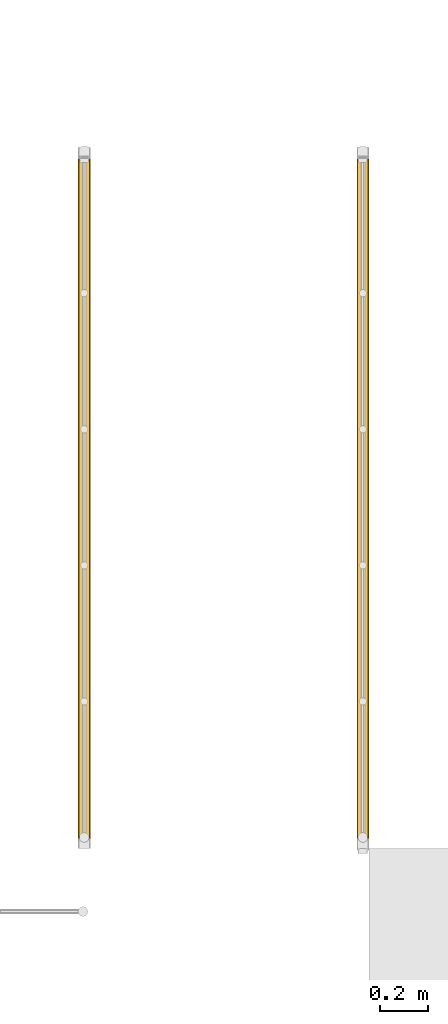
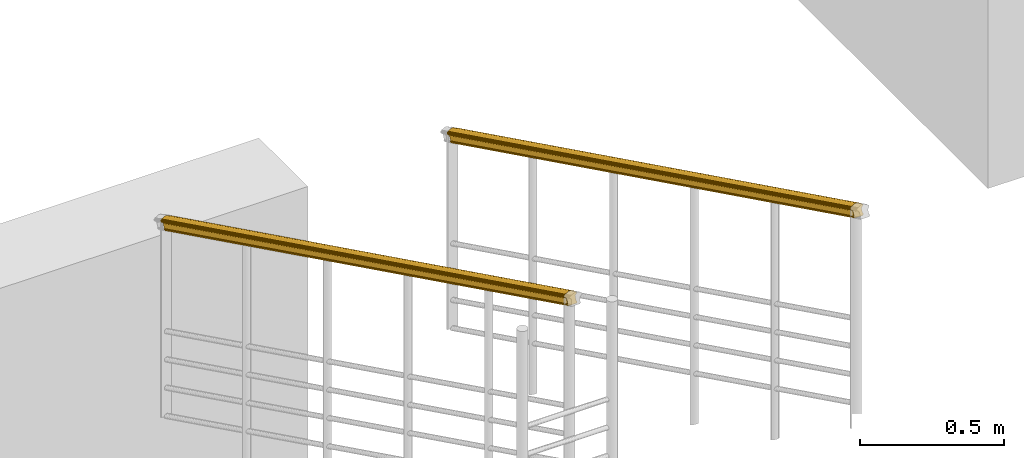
# One storey, part 16 of 16: 2 railings, 2 elements without a shape of their own.
"""IFC2X3 building model written with IfcOpenShell, lengths in millimetres."""

from ifc_helpers import new_model, entity, si_unit, converted_unit, derived_unit, money_unit, direction, frame, origin_with_axes, place, context, subcontext, project, spatial, faceted_brep, source, transform, mapped, material, type_object, element, aggregate, save


model = new_model("IFC2X3")

# Units and contexts
model_context = context("Model", 3, precision=0.01, world=origin_with_axes(), true_north=direction((0.0, 1.0)))
body_context = subcontext(model_context, "Body", "Model", "MODEL_VIEW")
ifc_project = project(units=[si_unit("LENGTHUNIT", "METRE", prefix="MILLI"), si_unit("AREAUNIT", "SQUARE_METRE"), si_unit("VOLUMEUNIT", "CUBIC_METRE"), converted_unit("PLANEANGLEUNIT", "DEGREE", entity("IfcPlaneAngleMeasure", 0.0174532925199), si_unit("PLANEANGLEUNIT", "RADIAN"), dimensions=[0, 0, 0, 0, 0, 0, 0]), si_unit("SOLIDANGLEUNIT", "STERADIAN"), money_unit("EUR"), converted_unit("TIMEUNIT", "Year", entity("IfcTimeMeasure", 31556926.0), si_unit("TIMEUNIT", "SECOND"), dimensions=[0, 0, 1, 0, 0, 0, 0]), si_unit("MASSUNIT", "GRAM", prefix="KILO"), si_unit("THERMODYNAMICTEMPERATUREUNIT", "DEGREE_CELSIUS"), si_unit("LUMINOUSINTENSITYUNIT", "LUMEN"), si_unit("ENERGYUNIT", "JOULE", prefix="MEGA"), derived_unit("THERMALCONDUCTANCEUNIT", [(si_unit("POWERUNIT", "WATT"), 1), (si_unit("LENGTHUNIT", "METRE"), -1), (si_unit("THERMODYNAMICTEMPERATUREUNIT", "KELVIN"), -1)]), derived_unit("SPECIFICHEATCAPACITYUNIT", [(si_unit("ENERGYUNIT", "JOULE"), 1), (si_unit("MASSUNIT", "GRAM", prefix="KILO"), -1), (si_unit("THERMODYNAMICTEMPERATUREUNIT", "KELVIN"), -1)]), derived_unit("MASSDENSITYUNIT", [(si_unit("MASSUNIT", "GRAM", prefix="KILO"), 1), (si_unit("VOLUMEUNIT", "CUBIC_METRE"), -1)])], contexts=[model_context])

# Site, building, storey
site_placement = place(None, origin_with_axes())
site = spatial("IfcSite", under=ifc_project, at=site_placement, Name="Paldiski mnt 245/1, Tallinn, Harjumaa", CompositionType="COMPLEX")
building_placement = place(site_placement, origin_with_axes())
building = spatial("IfcBuilding", under=site, at=building_placement, Name="RKAS Hoone üldnimetus (kasutust iseloomustav) -> IFC Project Manager -> SOLIBRI", CompositionType="ELEMENT")
storey_placement = place(building_placement, frame((0.0, 0.0, -1200.0), z_axis=(0.0, 0.0, 1.0), x_axis=(1.0, 0.0, 0.0)))
storey = spatial("IfcBuildingStorey", under=building, at=storey_placement, Name="Vundament", CompositionType="ELEMENT", Elevation=-1200.0)

# Railings
railing_type_1 = type_object("IfcRailingType", Name="Railing Type", PredefinedType="NOTDEFINED")
railing_1_placement = place(storey_placement, frame((-44615.0, -7778.11378171, 1453.63636364), z_axis=(0.0, 0.0, 1.0), x_axis=(-0.773149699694, -0.634223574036, 0.0)))
railing_1 = element("IfcRailing", 1, at=railing_1_placement, inside=storey, type_object=railing_type_1, Name="PIIRE", PredefinedType="NOTDEFINED")
ifc_material = material(Name="ET-07_Teras - Roostevaba")
railing_type_2 = type_object("IfcRailingType", Name="IfcRailing", PredefinedType="GUARDRAIL")
shared_shape = source(origin_with_axes(), body_context, "Body", "Brep", [
    faceted_brep([(17.1348314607, -22.0942804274, 905.146429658), (17.1348314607, -20.853028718, 907.666293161), (17.1348314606, -2827.9258906, 2290.39356589), (17.1348314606, -2829.16714231, 2287.87370239), (-17.1348314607, -22.0942804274, 905.146429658), (-17.1348314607, -20.853028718, 907.666293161), (-17.3551690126, -20.8487777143, 907.674923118), (-17.7891492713, -20.8149635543, 907.743569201), (-18.2032484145, -20.7483626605, 907.87877559), (-18.5848842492, -20.6509986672, 908.076434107), (-18.9224609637, -20.5258299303, 908.330539), (-19.2057214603, -20.3766596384, 908.633369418), (-19.4260590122, -20.2080202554, 908.975724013), (-19.5767787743, -20.0250358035, 909.347200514), (-19.653301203, -19.8332661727, 909.736511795), (-19.653301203, -19.6385381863, 910.13182883), (-19.5767787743, -19.4467685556, 910.521140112), (-19.4260590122, -19.2637841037, 910.892616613), (-19.2057214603, -19.0951447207, 911.234971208), (-18.9224609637, -18.9459744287, 911.537801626), (-18.5848842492, -18.8208056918, 911.791906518), (-18.2032484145, -18.7234416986, 911.989565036), (-17.7891492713, -18.6568408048, 912.124771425), (-17.3551690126, -18.6230266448, 912.193417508), (-17.1348314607, -18.6187756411, 912.202047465), (-17.1348314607, -10.426514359, 928.83314658), (-17.1444516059, -10.3291503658, 929.030805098), (-17.2209740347, -10.1373807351, 929.420116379), (-17.3716937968, -9.95439628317, 929.79159288), (-17.5920313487, -9.78575690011, 930.133947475), (-17.8752918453, -9.63658660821, 930.436777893), (-18.2128685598, -9.51141787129, 930.690882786), (-18.5945043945, -9.41405387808, 930.888541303), (-19.0086035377, -9.34745298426, 931.023747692), (-19.4425837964, -9.31363882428, 931.092393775), (-19.6629213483, -9.30938782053, 931.101023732), (-19.6629213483, -8.31638645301, 933.116914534), (-20.1280784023, -8.30741211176, 933.135133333), (-21.0442589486, -8.23602666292, 933.280052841), (-21.9184682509, -8.09542477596, 933.565488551), (-22.7241439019, -7.88987856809, 933.982767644), (-23.4368058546, -7.62563345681, 934.519211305), (-24.0348002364, -7.31071839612, 935.158519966), (-24.4999572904, -6.95470192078, 935.881268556), (-24.8181434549, -6.56840141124, 936.665496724), (-24.9796908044, -6.16355441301, 937.487376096), (-24.9796908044, -5.75246199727, 938.321934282), (-24.8181434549, -5.34761499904, 939.143813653), (-24.4999572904, -4.9613144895, 939.928041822), (-24.0348002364, -4.60529801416, 940.650790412), (-23.4368058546, -4.29038295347, 941.290099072), (-22.7241439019, -4.02613784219, 941.826542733), (-21.9184682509, -3.82059163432, 942.243821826), (-21.0442589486, -3.67998974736, 942.529257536), (-20.1280784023, -3.60860429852, 942.674177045), (-19.6629213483, -3.59962995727, 942.692395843), (-19.6629213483, -2.63562365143, 944.649423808), (-19.1300013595, -2.63177115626, 944.657244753), (-16.3105120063, -2.4815643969, 944.962179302), (-13.5928839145, -2.11729278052, 945.701686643), (-11.0596908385, -1.55002451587, 946.85329722), (-10.6117353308, -1.4224001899, 947.1123872), (-9.55056179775, -1.13081413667, 947.704335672), (-6.53296902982, -0.509025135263, 948.966628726), (-3.31687530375, -0.128230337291, 949.739679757), (0.0, 0.0, 950.0), (3.31687530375, -0.128230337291, 949.739679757), (6.53296902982, -0.509025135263, 948.966628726), (9.55056179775, -1.13081413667, 947.704335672), (10.6117353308, -1.4224001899, 947.1123872), (13.5928839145, -2.11729278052, 945.701686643), (16.3105120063, -2.4815643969, 944.962179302), (19.1300013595, -2.63177115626, 944.657244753), (19.6629213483, -2.63562365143, 944.649423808), (19.6629213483, -3.59962995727, 942.692395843), (20.1280784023, -3.60860429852, 942.674177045), (21.0442589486, -3.67998974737, 942.529257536), (21.9184682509, -3.82059163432, 942.243821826), (22.7241439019, -4.02613784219, 941.826542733), (23.4368058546, -4.29038295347, 941.290099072), (24.0348002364, -4.60529801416, 940.650790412), (24.4999572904, -4.9613144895, 939.928041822), (24.8181434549, -5.34761499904, 939.143813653), (24.9796908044, -5.75246199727, 938.321934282), (24.9796908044, -6.16355441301, 937.487376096), (24.8181434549, -6.56840141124, 936.665496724), (24.4999572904, -6.95470192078, 935.881268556), (24.0348002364, -7.31071839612, 935.158519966), (23.4368058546, -7.62563345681, 934.519211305), (22.7241439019, -7.88987856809, 933.982767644), (21.9184682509, -8.09542477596, 933.565488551), (21.0442589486, -8.23602666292, 933.280052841), (20.1280784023, -8.30741211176, 933.135133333), (19.6629213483, -8.31638645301, 933.116914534), (19.6629213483, -9.30938782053, 931.101023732), (19.4425837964, -9.31363882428, 931.092393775), (19.0086035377, -9.34745298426, 931.023747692), (18.5945043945, -9.41405387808, 930.888541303), (18.2128685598, -9.51141787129, 930.690882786), (17.8752918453, -9.63658660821, 930.436777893), (17.5920313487, -9.78575690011, 930.133947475), (17.3716937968, -9.95439628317, 929.79159288), (17.2209740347, -10.1373807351, 929.420116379), (17.1444516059, -10.3291503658, 929.030805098), (17.1348314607, -10.426514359, 928.83314658), (17.1348314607, -18.6187756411, 912.202047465), (17.3551690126, -18.6230266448, 912.193417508), (17.7891492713, -18.6568408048, 912.124771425), (18.2032484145, -18.7234416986, 911.989565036), (18.5848842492, -18.8208056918, 911.791906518), (18.9224609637, -18.9459744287, 911.537801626), (19.2057214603, -19.0951447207, 911.234971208), (19.4260590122, -19.2637841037, 910.892616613), (19.5767787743, -19.4467685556, 910.521140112), (19.653301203, -19.6385381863, 910.13182883), (19.653301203, -19.8332661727, 909.736511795), (19.5767787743, -20.0250358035, 909.347200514), (19.4260590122, -20.2080202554, 908.975724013), (19.2057214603, -20.3766596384, 908.633369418), (18.9224609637, -20.5258299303, 908.330539), (18.5848842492, -20.6509986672, 908.076434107), (18.2032484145, -20.7483626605, 907.87877559), (17.7891492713, -20.8149635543, 907.743569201), (17.3551690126, -20.8487777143, 907.674923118), (17.3551690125, -2827.9216396, 2290.40219585), (17.7891492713, -2827.88782544, 2290.47084193), (18.2032484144, -2827.82122454, 2290.60604832), (18.5848842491, -2827.72386055, 2290.80370683), (18.9224609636, -2827.59869181, 2291.05781173), (19.2057214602, -2827.44952152, 2291.36064215), (19.4260590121, -2827.28088214, 2291.70299674), (19.5767787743, -2827.09789769, 2292.07447324), (19.653301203, -2826.90612806, 2292.46378452), (19.653301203, -2826.71140007, 2292.85910156), (19.5767787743, -2826.51963044, 2293.24841284), (19.4260590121, -2826.33664599, 2293.61988934), (19.2057214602, -2826.1680066, 2293.96224394), (18.9224609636, -2826.01883631, 2294.26507435), (18.5848842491, -2825.89366757, 2294.51917925), (18.2032484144, -2825.79630358, 2294.71683776), (17.7891492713, -2825.72970269, 2294.85204415), (17.3551690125, -2825.69588853, 2294.92069023), (17.1348314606, -2825.69163752, 2294.92932019), (17.1348314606, -2817.49937624, 2311.56041931), (17.1444516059, -2817.40201225, 2311.75807783), (17.2209740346, -2817.21024262, 2312.14738911), (17.3716937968, -2817.02725817, 2312.51886561), (17.5920313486, -2816.85861878, 2312.8612202), (17.8752918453, -2816.70944849, 2313.16405062), (18.2128685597, -2816.58427975, 2313.41815551), (18.5945043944, -2816.48691576, 2313.61581403), (19.0086035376, -2816.42031487, 2313.75102042), (19.4425837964, -2816.38650071, 2313.8196665), (19.6629213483, -2816.3822497, 2313.82829646), (19.6629213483, -2815.38924834, 2315.84418726), (20.1280784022, -2815.38027399, 2315.86240606), (21.0442589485, -2815.30888855, 2316.00732557), (21.9184682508, -2815.16828666, 2316.29276128), (22.7241439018, -2814.96274045, 2316.71004037), (23.4368058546, -2814.69849534, 2317.24648403), (24.0348002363, -2814.38358028, 2317.88579269), (24.4999572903, -2814.0275638, 2318.60854128), (24.8181434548, -2813.64126329, 2319.39276945), (24.9796908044, -2813.2364163, 2320.21464882), (24.9796908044, -2812.82532388, 2321.04920701), (24.8181434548, -2812.42047688, 2321.87108638), (24.4999572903, -2812.03417637, 2322.65531455), (24.0348002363, -2811.6781599, 2323.37806314), (23.4368058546, -2811.36324484, 2324.0173718), (22.7241439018, -2811.09899973, 2324.55381546), (21.9184682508, -2810.89345352, 2324.97109455), (21.0442589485, -2810.75285163, 2325.25653026), (20.1280784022, -2810.68146618, 2325.40144977), (19.6629213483, -2810.67249184, 2325.41966857), (19.6629213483, -2809.70848553, 2327.37669653), (19.1300013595, -2809.70463304, 2327.38451748), (16.3105120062, -2809.55442628, 2327.68945203), (13.5928839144, -2809.19015466, 2328.42895937), (10.6117353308, -2808.49526207, 2329.83965993), (9.55056179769, -2808.20367602, 2330.4316084), (6.53296902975, -2807.58188702, 2331.69390145), (3.31687530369, -2807.20109222, 2332.46695248), (0.0, -2807.07286188, 2332.72727273), (-3.31687530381, -2807.20109222, 2332.46695248), (-6.53296902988, -2807.58188702, 2331.69390145), (-9.55056179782, -2808.20367602, 2330.4316084), (-10.6117353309, -2808.49526207, 2329.83965993), (-11.0596908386, -2808.6228864, 2329.58056995), (-13.5928839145, -2809.19015466, 2328.42895937), (-16.3105120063, -2809.55442628, 2327.68945203), (-19.1300013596, -2809.70463304, 2327.38451748), (-19.6629213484, -2809.70848553, 2327.37669653), (-19.6629213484, -2810.67249184, 2325.41966857), (-20.1280784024, -2810.68146618, 2325.40144977), (-21.0442589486, -2810.75285163, 2325.25653026), (-21.9184682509, -2810.89345352, 2324.97109455), (-22.7241439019, -2811.09899973, 2324.55381546), (-23.4368058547, -2811.36324484, 2324.0173718), (-24.0348002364, -2811.6781599, 2323.37806314), (-24.4999572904, -2812.03417637, 2322.65531455), (-24.818143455, -2812.42047688, 2321.87108638), (-24.9796908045, -2812.82532388, 2321.04920701), (-24.9796908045, -2813.2364163, 2320.21464882), (-24.818143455, -2813.64126329, 2319.39276945), (-24.4999572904, -2814.0275638, 2318.60854128), (-24.0348002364, -2814.38358028, 2317.88579269), (-23.4368058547, -2814.69849534, 2317.24648403), (-22.7241439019, -2814.96274045, 2316.71004037), (-21.9184682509, -2815.16828666, 2316.29276128), (-21.0442589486, -2815.30888855, 2316.00732557), (-20.1280784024, -2815.38027399, 2315.86240606), (-19.6629213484, -2815.38924834, 2315.84418726), (-19.6629213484, -2816.3822497, 2313.82829646), (-19.4425837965, -2816.38650071, 2313.8196665), (-19.0086035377, -2816.42031487, 2313.75102042), (-18.5945043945, -2816.48691576, 2313.61581403), (-18.2128685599, -2816.58427975, 2313.41815551), (-17.8752918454, -2816.70944849, 2313.16405062), (-17.5920313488, -2816.85861878, 2312.8612202), (-17.3716937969, -2817.02725817, 2312.51886561), (-17.2209740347, -2817.21024262, 2312.14738911), (-17.144451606, -2817.40201225, 2311.75807783), (-17.1348314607, -2817.49937624, 2311.56041931), (-17.1348314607, -2825.69163752, 2294.92932019), (-17.3551690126, -2825.69588853, 2294.92069023), (-17.7891492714, -2825.72970269, 2294.85204415), (-18.2032484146, -2825.79630358, 2294.71683776), (-18.5848842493, -2825.89366757, 2294.51917925), (-18.9224609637, -2826.01883631, 2294.26507435), (-19.2057214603, -2826.1680066, 2293.96224394), (-19.4260590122, -2826.33664599, 2293.61988934), (-19.5767787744, -2826.51963044, 2293.24841284), (-19.6533012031, -2826.71140007, 2292.85910156), (-19.6533012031, -2826.90612806, 2292.46378452), (-19.5767787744, -2827.09789769, 2292.07447324), (-19.4260590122, -2827.28088214, 2291.70299674), (-19.2057214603, -2827.44952152, 2291.36064215), (-18.9224609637, -2827.59869181, 2291.05781173), (-18.5848842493, -2827.72386055, 2290.80370683), (-18.2032484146, -2827.82122454, 2290.60604832), (-17.7891492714, -2827.88782544, 2290.47084193), (-17.3551690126, -2827.9216396, 2290.40219585), (-17.1348314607, -2827.9258906, 2290.39356589), (-17.1348314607, -2829.16714231, 2287.87370239)], [[[0, 1, 2, 3]], [[0, 4, 5, 6, 7, 8, 9, 10, 11, 12, 13, 14, 15, 16, 17, 18, 19, 20, 21, 22, 23, 24, 25, 26, 27, 28, 29, 30, 31, 32, 33, 34, 35, 36, 37, 38, 39, 40, 41, 42, 43, 44, 45, 46, 47, 48, 49, 50, 51, 52, 53, 54, 55, 56, 57, 58, 59, 60, 61, 62, 63, 64, 65, 66, 67, 68, 69, 70, 71, 72, 73, 74, 75, 76, 77, 78, 79, 80, 81, 82, 83, 84, 85, 86, 87, 88, 89, 90, 91, 92, 93, 94, 95, 96, 97, 98, 99, 100, 101, 102, 103, 104, 105, 106, 107, 108, 109, 110, 111, 112, 113, 114, 115, 116, 117, 118, 119, 120, 121, 122, 123, 1]], [[1, 123, 124, 2]], [[3, 2, 124, 125, 126, 127, 128, 129, 130, 131, 132, 133, 134, 135, 136, 137, 138, 139, 140, 141, 142, 143, 144, 145, 146, 147, 148, 149, 150, 151, 152, 153, 154, 155, 156, 157, 158, 159, 160, 161, 162, 163, 164, 165, 166, 167, 168, 169, 170, 171, 172, 173, 174, 175, 176, 177, 178, 179, 180, 181, 182, 183, 184, 185, 186, 187, 188, 189, 190, 191, 192, 193, 194, 195, 196, 197, 198, 199, 200, 201, 202, 203, 204, 205, 206, 207, 208, 209, 210, 211, 212, 213, 214, 215, 216, 217, 218, 219, 220, 221, 222, 223, 224, 225, 226, 227, 228, 229, 230, 231, 232, 233, 234, 235, 236, 237, 238, 239, 240, 241, 242, 243]], [[4, 0, 3, 243]], [[5, 4, 243, 242]], [[6, 5, 242, 241]], [[7, 6, 241, 240]], [[8, 7, 240, 239]], [[9, 8, 239, 238]], [[10, 9, 238, 237]], [[11, 10, 237, 236]], [[12, 11, 236, 235]], [[13, 12, 235, 234]], [[14, 13, 234, 233]], [[15, 14, 233, 232]], [[16, 15, 232, 231]], [[17, 16, 231, 230]], [[18, 17, 230, 229]], [[19, 18, 229, 228]], [[20, 19, 228, 227]], [[21, 20, 227, 226]], [[22, 21, 226, 225]], [[23, 22, 225, 224]], [[24, 23, 224, 223]], [[25, 24, 223, 222]], [[26, 25, 222, 221]], [[27, 26, 221, 220]], [[28, 27, 220, 219]], [[29, 28, 219, 218]], [[30, 29, 218, 217]], [[31, 30, 217, 216]], [[32, 31, 216, 215]], [[33, 32, 215, 214]], [[34, 33, 214, 213]], [[35, 34, 213, 212]], [[36, 35, 212, 211]], [[37, 36, 211, 210]], [[38, 37, 210, 209]], [[39, 38, 209, 208]], [[40, 39, 208, 207]], [[41, 40, 207, 206]], [[42, 41, 206, 205]], [[43, 42, 205, 204]], [[44, 43, 204, 203]], [[45, 44, 203, 202]], [[46, 45, 202, 201]], [[47, 46, 201, 200]], [[48, 47, 200, 199]], [[49, 48, 199, 198]], [[50, 49, 198, 197]], [[51, 50, 197, 196]], [[52, 51, 196, 195]], [[53, 52, 195, 194]], [[54, 53, 194, 193]], [[55, 54, 193, 192]], [[56, 55, 192, 191]], [[57, 56, 191, 190]], [[58, 57, 190, 189]], [[59, 58, 189, 188]], [[60, 59, 188, 187]], [[61, 60, 187, 186]], [[62, 61, 186, 185]], [[63, 62, 185, 184]], [[64, 63, 184, 183]], [[65, 64, 183, 182]], [[66, 65, 182, 181]], [[67, 66, 181, 180]], [[68, 67, 180, 179]], [[69, 68, 179, 178]], [[70, 69, 178, 177]], [[71, 70, 177, 176]], [[72, 71, 176, 175]], [[73, 72, 175, 174]], [[74, 73, 174, 173]], [[75, 74, 173, 172]], [[76, 75, 172, 171]], [[77, 76, 171, 170]], [[78, 77, 170, 169]], [[79, 78, 169, 168]], [[80, 79, 168, 167]], [[81, 80, 167, 166]], [[82, 81, 166, 165]], [[83, 82, 165, 164]], [[84, 83, 164, 163]], [[85, 84, 163, 162]], [[86, 85, 162, 161]], [[87, 86, 161, 160]], [[88, 87, 160, 159]], [[89, 88, 159, 158]], [[90, 89, 158, 157]], [[91, 90, 157, 156]], [[92, 91, 156, 155]], [[93, 92, 155, 154]], [[94, 93, 154, 153]], [[95, 94, 153, 152]], [[96, 95, 152, 151]], [[97, 96, 151, 150]], [[98, 97, 150, 149]], [[99, 98, 149, 148]], [[100, 99, 148, 147]], [[101, 100, 147, 146]], [[102, 101, 146, 145]], [[103, 102, 145, 144]], [[104, 103, 144, 143]], [[105, 104, 143, 142]], [[106, 105, 142, 141]], [[107, 106, 141, 140]], [[108, 107, 140, 139]], [[109, 108, 139, 138]], [[110, 109, 138, 137]], [[111, 110, 137, 136]], [[112, 111, 136, 135]], [[113, 112, 135, 134]], [[114, 113, 134, 133]], [[115, 114, 133, 132]], [[116, 115, 132, 131]], [[117, 116, 131, 130]], [[118, 117, 130, 129]], [[119, 118, 129, 128]], [[120, 119, 128, 127]], [[121, 120, 127, 126]], [[122, 121, 126, 125]], [[123, 122, 125, 124]]]),
])
railing_2_placement = place(railing_1_placement, frame((890.155891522, 1085.14377009, 794.098300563), z_axis=(0.0, 0.0, 1.0), x_axis=(-0.773149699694, 0.634223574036, 0.0)))
railing_2 = element("IfcRailing", 2, at=railing_2_placement, type_object=railing_type_2, material=ifc_material, Name="Piirde Ülaosa - 001", PredefinedType="GUARDRAIL", context=body_context, shape_type="MappedRepresentation", body=[
    mapped(shared_shape, transform((0.0, 1403.53643094, -894.098300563))),
])
aggregate(railing_1, [railing_2])

railing_3_placement = place(storey_placement, frame((-45764.8098199, -7778.11378171, 1483.63636364), z_axis=(0.0, 0.0, 1.0), x_axis=(-0.773149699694, -0.634223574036, 0.0)))
railing_3 = element("IfcRailing", 3, at=railing_3_placement, inside=storey, type_object=railing_type_1, Name="PIIRE", PredefinedType="NOTDEFINED")
railing_4_placement = place(railing_3_placement, frame((890.155891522, 1085.14377009, 794.098300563), z_axis=(0.0, 0.0, 1.0), x_axis=(-0.773149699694, 0.634223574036, 0.0)))
railing_4 = element("IfcRailing", 4, at=railing_4_placement, type_object=railing_type_2, material=ifc_material, Name="Piirde Ülaosa - 001", PredefinedType="GUARDRAIL", context=body_context, shape_type="MappedRepresentation", body=[
    mapped(shared_shape, transform((0.0, 1403.53643094, -894.098300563))),
])
aggregate(railing_3, [railing_4])

save(model, "model.ifc")
